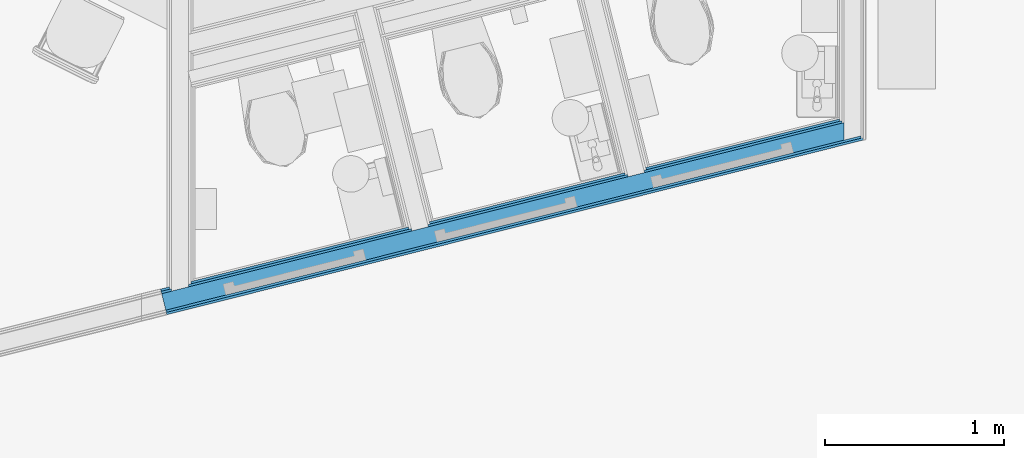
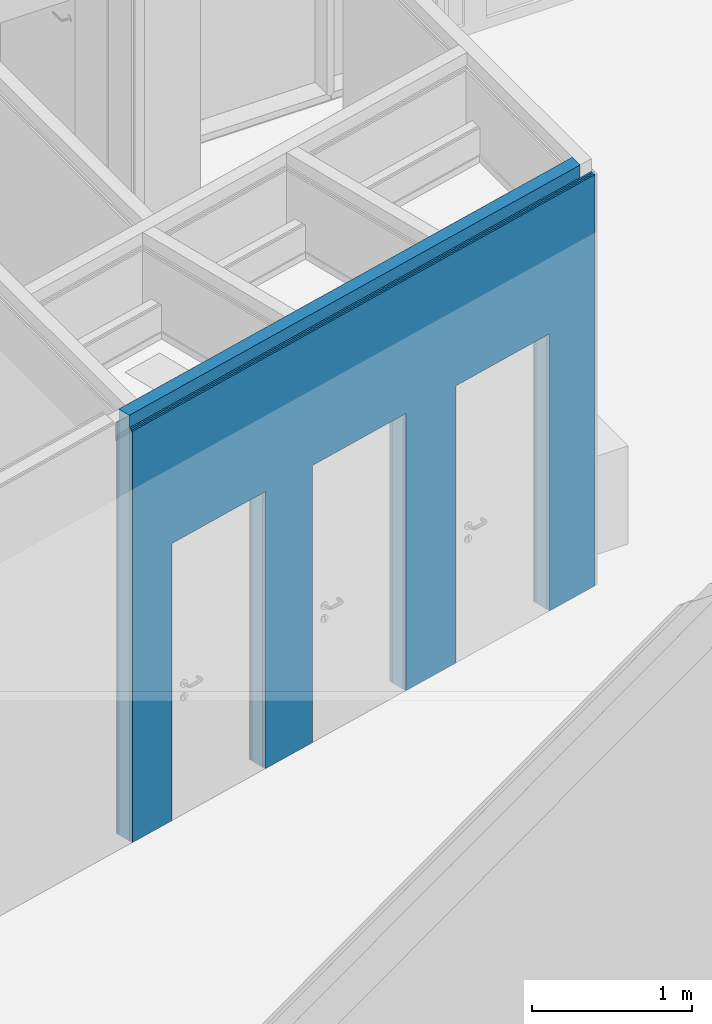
# One storey, part 47 of 153: 5 building element parts, 3 openings, 1 element without a shape of its own.
"""IFC2X3 building model written with IfcOpenShell, lengths in millimetres."""

from ifc_helpers import new_model, entity, si_unit, converted_unit, derived_unit, money_unit, direction, frame, origin_with_axes, place, context, subcontext, project, spatial, faceted_brep, material, type_object, element, aggregate, save


model = new_model("IFC2X3")

# Units and contexts
model_context = context("Model", 3, precision=0.01, world=origin_with_axes(), true_north=direction((0.0, 1.0)))
body_context = subcontext(model_context, "Body", "Model", "MODEL_VIEW")
ifc_project = project(units=[si_unit("LENGTHUNIT", "METRE", prefix="MILLI"), si_unit("AREAUNIT", "SQUARE_METRE"), si_unit("VOLUMEUNIT", "CUBIC_METRE"), converted_unit("PLANEANGLEUNIT", "DEGREE", entity("IfcPlaneAngleMeasure", 0.0174532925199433), si_unit("PLANEANGLEUNIT", "RADIAN"), dimensions=[0, 0, 0, 0, 0, 0, 0]), money_unit("EUR"), converted_unit("TIMEUNIT", "Year", entity("IfcTimeMeasure", 31557600.0), si_unit("TIMEUNIT", "SECOND"), dimensions=[0, 0, 1, 0, 0, 0, 0]), si_unit("MASSUNIT", "GRAM", prefix="KILO"), si_unit("THERMODYNAMICTEMPERATUREUNIT", "DEGREE_CELSIUS"), si_unit("LUMINOUSINTENSITYUNIT", "LUMEN"), si_unit("ENERGYUNIT", "JOULE", prefix="MEGA"), derived_unit("THERMALCONDUCTANCEUNIT", [(si_unit("POWERUNIT", "WATT"), 1), (si_unit("LENGTHUNIT", "METRE"), -1), (si_unit("THERMODYNAMICTEMPERATUREUNIT", "KELVIN"), -1)]), derived_unit("SPECIFICHEATCAPACITYUNIT", [(si_unit("ENERGYUNIT", "JOULE"), 1), (si_unit("MASSUNIT", "GRAM", prefix="KILO"), -1), (si_unit("THERMODYNAMICTEMPERATUREUNIT", "KELVIN"), -1)]), derived_unit("MASSDENSITYUNIT", [(si_unit("MASSUNIT", "GRAM", prefix="KILO"), 1), (si_unit("VOLUMEUNIT", "CUBIC_METRE"), -1)])], contexts=[model_context])

# Site, building, storey
site_placement = place(None, frame((0.0, 0.0, 8650.0), z_axis=(0.0, 0.0, 1.0), x_axis=(1.0, 0.0, 0.0)))
site = spatial("IfcSite", under=ifc_project, at=site_placement, Name="43301:001:0844", CompositionType="ELEMENT")
building_placement = place(site_placement, origin_with_axes())
building = spatial("IfcBuilding", under=site, at=building_placement, Name="Kuressaare Ametikooli tuulikute mehaanikute õppekorpus", CompositionType="ELEMENT")
storey_placement = place(building_placement, frame((0.0, 0.0, 4100.0), z_axis=(0.0, 0.0, 1.0), x_axis=(1.0, 0.0, 0.0)))
storey = spatial("IfcBuildingStorey", under=building, at=storey_placement, Name="2.korrus", CompositionType="ELEMENT", Elevation=4100.0)

# Wall, openings, building element parts
wall_type = type_object("IfcWallType", Name="SS-2.2 147", PredefinedType="NOTDEFINED")
wall_placement = place(storey_placement, frame((99785.61828844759, 19945.87727084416, 0.0), z_axis=(0.0, 0.0, 1.0), x_axis=(0.9699953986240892, 0.2431232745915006, 0.0)))
wall = element("IfcWall", 1, at=wall_placement, inside=storey, type_object=wall_type, Name="Sisesein")
opening_1_placement = place(wall_placement, frame((750.1028957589, 0.0, 0.0), z_axis=(0.0, 0.0, 1.0), x_axis=(1.0, 0.0, 0.0)))
element("IfcOpeningElement", 2, at=opening_1_placement, cuts=wall, Name="PU8", context=body_context, shape_type="Brep", body=[
    faceted_brep([(405.0000000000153, 1098.206924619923, 2110.0), (405.0000000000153, 1098.206924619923, 0.0), (-405.0000000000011, 1098.206924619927, 0.0), (-405.0000000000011, 1098.206924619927, 2110.0), (405.0000000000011, -951.2069246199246, 2110.0), (405.0000000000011, -951.2069246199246, 0.0), (-405.0000000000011, -951.2069246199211, 0.0), (-405.0000000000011, -951.2069246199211, 2110.0)], [[[0, 1, 2, 3]], [[4, 5, 1, 0]], [[5, 6, 2, 1]], [[6, 7, 3, 2]], [[7, 4, 0, 3]], [[6, 5, 4, 7]]]),
])
opening_2_placement = place(wall_placement, frame((1968.103046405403, 0.0, 0.0), z_axis=(0.0, 0.0, 1.0), x_axis=(1.0, 0.0, 0.0)))
element("IfcOpeningElement", 3, at=opening_2_placement, cuts=wall, Name="PU8", context=body_context, shape_type="Brep", body=[
    faceted_brep([(405.0000000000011, 1098.206924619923, 2110.0), (405.0000000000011, 1098.206924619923, 0.0), (-405.0000000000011, 1098.206924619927, 0.0), (-405.0000000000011, 1098.206924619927, 2110.0), (405.0000000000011, -951.2069246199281, 2110.0), (405.0000000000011, -951.2069246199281, 0.0), (-405.0000000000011, -951.2069246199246, 0.0), (-405.0000000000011, -951.2069246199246, 2110.0)], [[[0, 1, 2, 3]], [[4, 5, 1, 0]], [[5, 6, 2, 1]], [[6, 7, 3, 2]], [[7, 4, 0, 3]], [[6, 5, 4, 7]]]),
])
opening_3_placement = place(wall_placement, frame((3215.103197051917, 0.0, 0.0), z_axis=(0.0, 0.0, 1.0), x_axis=(1.0, 0.0, 0.0)))
element("IfcOpeningElement", 4, at=opening_3_placement, cuts=wall, Name="PU8", context=body_context, shape_type="Brep", body=[
    faceted_brep([(405.0000000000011, 1098.206924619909, 2110.0), (405.0000000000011, 1098.206924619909, 0.0), (-405.0000000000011, 1098.206924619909, 0.0), (-405.0000000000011, 1098.206924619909, 2110.0), (405.0000000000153, -951.2069246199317, 2110.0), (405.0000000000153, -951.2069246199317, 0.0), (-404.9999999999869, -951.2069246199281, 0.0), (-404.9999999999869, -951.2069246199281, 2110.0)], [[[0, 1, 2, 3]], [[4, 5, 1, 0]], [[5, 6, 2, 1]], [[6, 7, 3, 2]], [[7, 4, 0, 3]], [[6, 5, 4, 7]]]),
])
ifc_material_1 = material(Name="Kipsplaat")
building_element_part_1_placement = place(wall_placement, origin_with_axes())
building_element_part_1 = element("IfcBuildingElementPart", 5, at=building_element_part_1_placement, material=ifc_material_1, Name="Kipsplaat", context=body_context, shape_type="Brep", body=[
    faceted_brep([(0.0, 147.000000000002, 3129.999999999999), (50.2467552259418, 147.000000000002, 3129.999999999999), (50.2467552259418, 147.000000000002, 0.0), (0.0, 147.000000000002, 0.0), (46.98838660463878, 134.0000000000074, 3129.999999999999), (0.0, 134.0000000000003, 3129.999999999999), (46.98838660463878, 134.0000000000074, 0.0), (0.0, 134.0000000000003, 0.0)], [[[0, 1, 2, 3]], [[4, 1, 0, 5]], [[1, 4, 6, 2]], [[3, 2, 6, 7]], [[5, 0, 3, 7]], [[4, 5, 7, 6]]]),
    faceted_brep([(345.1028957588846, 134.0000000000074, 0.0), (345.1028957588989, 134.0000000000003, 2110.0), (1155.102895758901, 134.0000000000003, 2110.0), (1155.102895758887, 134.0000000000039, 0.0), (1429.103046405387, 134.0000000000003, 0.0), (1429.103046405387, 134.0000000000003, 3129.999999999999), (171.7312463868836, 134.0000000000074, 3129.999999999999), (171.7312463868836, 134.0000000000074, 0.0), (345.1028957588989, 147.000000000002, 0.0), (345.1028957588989, 147.000000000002, 2110.0), (1155.102895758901, 147.000000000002, 2110.0), (1155.102895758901, 146.9999999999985, 0.0), (1429.103046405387, 146.9999999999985, 0.0), (1429.103046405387, 146.9999999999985, 3129.999999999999), (174.9896150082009, 146.9999999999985, 3129.999999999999), (174.9896150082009, 146.9999999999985, 0.0)], [[[0, 1, 2, 3, 4, 5, 6, 7]], [[1, 0, 8, 9]], [[2, 1, 9, 10]], [[3, 2, 10, 11]], [[3, 11, 12, 4]], [[5, 4, 12, 13]], [[5, 13, 14, 6]], [[14, 15, 7, 6]], [[8, 0, 7, 15]], [[9, 8, 15, 14, 13, 12, 11, 10]]]),
    faceted_brep([(2810.10319705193, 133.9999999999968, 0.0), (2810.10319705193, 133.9999999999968, 2110.0), (3620.103197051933, 133.9999999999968, 2110.0), (3620.103197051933, 133.9999999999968, 0.0), (3911.26842200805, 134.0000000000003, 0.0), (3911.26842200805, 134.0000000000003, 3129.999999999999), (2797.103366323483, 134.0000000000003, 3129.999999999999), (2797.103366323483, 134.0000000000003, 0.0), (2810.103197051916, 147.000000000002, 0.0), (2810.103197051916, 147.000000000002, 2110.0), (3620.103197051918, 147.000000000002, 2110.0), (3620.103197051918, 147.000000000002, 0.0), (3914.526790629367, 147.0000000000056, 0.0), (3914.526790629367, 147.0000000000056, 3129.999999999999), (2797.103364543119, 147.000000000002, 3129.999999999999), (2797.103364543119, 147.000000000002, 0.0)], [[[0, 1, 2, 3, 4, 5, 6, 7]], [[1, 0, 8, 9]], [[2, 1, 9, 10]], [[3, 2, 10, 11]], [[3, 11, 12, 4]], [[5, 4, 12, 13]], [[13, 14, 6, 5]], [[14, 15, 7, 6]], [[8, 0, 7, 15]], [[9, 8, 15, 14, 13, 12, 11, 10]]]),
    faceted_brep([(1563.103046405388, 133.9999999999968, 0.0), (1563.103046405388, 133.9999999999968, 2110.0), (2373.103046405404, 134.0000000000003, 2110.0), (2373.103046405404, 134.0000000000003, 0.0), (2676.103366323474, 134.0000000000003, 0.0), (2676.103366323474, 134.0000000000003, 3129.999999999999), (1550.103046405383, 134.0000000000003, 3129.999999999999), (1550.103046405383, 134.0000000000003, 0.0), (1563.103046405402, 147.000000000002, 0.0), (1563.103046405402, 147.000000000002, 2110.0), (2373.103046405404, 147.000000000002, 2110.0), (2373.103046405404, 147.000000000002, 0.0), (2676.103364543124, 147.0000000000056, 0.0), (2676.103364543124, 147.0000000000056, 3129.999999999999), (1550.103046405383, 147.0000000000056, 3129.999999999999), (1550.103046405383, 147.0000000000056, 0.0)], [[[0, 1, 2, 3, 4, 5, 6, 7]], [[1, 0, 8, 9]], [[2, 1, 9, 10]], [[3, 2, 10, 11]], [[3, 11, 12, 4]], [[5, 4, 12, 13]], [[5, 13, 14, 6]], [[14, 15, 7, 6]], [[8, 0, 7, 15]], [[9, 8, 15, 14, 13, 12, 11, 10]]]),
])
building_element_part_2_placement = place(wall_placement, origin_with_axes())
building_element_part_2 = element("IfcBuildingElementPart", 6, at=building_element_part_2_placement, material=ifc_material_1, Name="Kipsplaat", context=body_context, shape_type="Brep", body=[
    faceted_brep([(0.0, 134.0000000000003, 3145.0), (60.39051203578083, 134.0000000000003, 3145.0), (60.39051203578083, 134.0000000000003, 0.0), (0.0, 134.0000000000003, 0.0), (57.1321434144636, 121.0000000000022, 3145.0), (0.0, 120.9999999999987, 3145.0), (57.1321434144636, 121.0000000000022, 0.0), (0.0, 120.9999999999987, 0.0)], [[[0, 1, 2, 3]], [[4, 1, 0, 5]], [[1, 4, 6, 2]], [[3, 2, 6, 7]], [[5, 0, 3, 7]], [[4, 5, 7, 6]]]),
    faceted_brep([(345.1028957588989, 120.9999999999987, 0.0), (345.1028957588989, 120.9999999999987, 2110.0), (1155.102895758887, 121.0000000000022, 2110.0), (1155.102895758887, 121.0000000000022, 0.0), (1442.103046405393, 120.9999999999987, 0.0), (1442.103046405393, 120.9999999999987, 3145.0), (155.0707523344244, 121.0000000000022, 3145.0), (155.0707523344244, 121.0000000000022, 0.0), (345.1028957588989, 134.0000000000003, 0.0), (345.1028957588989, 134.0000000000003, 2110.0), (1155.102895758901, 133.9999999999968, 2110.0), (1155.102895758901, 134.0000000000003, 0.0), (1442.103046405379, 134.0000000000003, 0.0), (1442.103046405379, 134.0000000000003, 3145.0), (158.3291209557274, 134.0000000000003, 3145.0), (158.3291209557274, 134.0000000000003, 0.0)], [[[0, 1, 2, 3, 4, 5, 6, 7]], [[1, 0, 8, 9]], [[2, 1, 9, 10]], [[3, 2, 10, 11]], [[3, 11, 12, 4]], [[5, 4, 12, 13]], [[5, 13, 14, 6]], [[14, 15, 7, 6]], [[8, 0, 7, 15]], [[9, 8, 15, 14, 13, 12, 11, 10]]]),
    faceted_brep([(2810.10319705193, 120.9999999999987, 0.0), (2810.103197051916, 120.9999999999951, 2110.0), (3620.103197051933, 120.9999999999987, 2110.0), (3620.103197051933, 120.9999999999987, 0.0), (3921.412178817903, 120.9999999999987, 0.0), (3921.412178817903, 120.9999999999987, 3145.0), (2784.103368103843, 121.0000000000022, 3145.0), (2784.103368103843, 121.0000000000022, 0.0), (2810.10319705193, 133.9999999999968, 0.0), (2810.10319705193, 133.9999999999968, 2110.0), (3620.103197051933, 133.9999999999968, 2110.0), (3620.103197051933, 133.9999999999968, 0.0), (3924.670547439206, 133.9999999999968, 0.0), (3924.670547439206, 133.9999999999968, 3145.0), (2784.103366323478, 134.0000000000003, 3145.0), (2784.103366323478, 134.0000000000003, 0.0)], [[[0, 1, 2, 3, 4, 5, 6, 7]], [[1, 0, 8, 9]], [[2, 1, 9, 10]], [[3, 2, 10, 11]], [[3, 11, 12, 4]], [[5, 4, 12, 13]], [[13, 14, 6, 5]], [[14, 15, 7, 6]], [[8, 0, 7, 15]], [[9, 8, 15, 14, 13, 12, 11, 10]]]),
    faceted_brep([(1563.103046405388, 121.0000000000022, 0.0), (1563.103046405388, 121.0000000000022, 2110.0), (2373.10304640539, 120.9999999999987, 2110.0), (2373.10304640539, 120.9999999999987, 0.0), (2689.103368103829, 121.0000000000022, 0.0), (2689.103368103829, 121.0000000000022, 3145.0), (1537.103046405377, 120.9999999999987, 3145.0), (1537.103046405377, 120.9999999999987, 0.0), (1563.103046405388, 133.9999999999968, 0.0), (1563.103046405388, 133.9999999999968, 2110.0), (2373.10304640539, 134.0000000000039, 2110.0), (2373.10304640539, 134.0000000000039, 0.0), (2689.103366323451, 134.0000000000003, 0.0), (2689.103366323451, 134.0000000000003, 3145.0), (1537.103046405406, 134.0000000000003, 3145.0), (1537.103046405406, 134.0000000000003, 0.0)], [[[0, 1, 2, 3, 4, 5, 6, 7]], [[1, 0, 8, 9]], [[2, 1, 9, 10]], [[3, 2, 10, 11]], [[3, 11, 12, 4]], [[5, 4, 12, 13]], [[5, 13, 14, 6]], [[14, 15, 7, 6]], [[8, 0, 7, 15]], [[9, 8, 15, 14, 13, 12, 11, 10]]]),
])
ifc_material_2 = material(Name="Soojustus - Mineraalvill pehme")
building_element_part_3_placement = place(wall_placement, origin_with_axes())
building_element_part_3 = element("IfcBuildingElementPart", 7, at=building_element_part_3_placement, material=ifc_material_2, Name="Soojustus - Mineraalvill pehme", context=body_context, shape_type="Brep", body=[
    faceted_brep([(2810.103197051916, 26.00000000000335, 0.0), (2810.103197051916, 25.9999999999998, 2110.0), (3620.103197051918, 25.9999999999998, 2110.0), (3620.103197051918, 26.00000000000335, 0.0), (3911.0031489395, 26.00000000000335, 0.0), (3911.0031489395, 26.00000000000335, 3240.0), (0.0, 26.00000000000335, 3240.0), (0.0, 25.9999999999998, 0.0), (345.1028957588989, 26.00000000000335, 0.0), (345.1028957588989, 26.00000000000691, 2110.0), (1155.102895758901, 26.00000000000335, 2110.0), (1155.102895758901, 25.9999999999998, 0.0), (1563.103046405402, 25.9999999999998, 0.0), (1563.103046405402, 26.00000000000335, 2110.0), (2373.103046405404, 26.00000000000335, 2110.0), (2373.103046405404, 26.00000000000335, 0.0), (2810.103197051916, 120.9999999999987, 0.0), (2810.103197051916, 120.9999999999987, 2110.0), (3620.103197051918, 120.9999999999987, 2110.0), (3620.103197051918, 121.0000000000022, 0.0), (3934.814304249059, 120.9999999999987, 0.0), (3934.814304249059, 120.9999999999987, 3240.0), (0.0, 120.9999999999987, 3240.0), (0.0, 120.9999999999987, 0.0), (345.1028957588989, 120.9999999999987, 0.0), (345.1028957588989, 120.9999999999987, 2110.0), (1155.102895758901, 120.9999999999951, 2110.0), (1155.102895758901, 120.9999999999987, 0.0), (1563.103046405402, 120.9999999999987, 0.0), (1563.103046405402, 120.9999999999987, 2110.0), (2373.103046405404, 120.9999999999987, 2110.0), (2373.103046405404, 120.9999999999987, 0.0)], [[[0, 1, 2, 3, 4, 5, 6, 7, 8, 9, 10, 11, 12, 13, 14, 15]], [[1, 0, 16, 17]], [[2, 1, 17, 18]], [[3, 2, 18, 19]], [[3, 19, 20, 4]], [[20, 21, 5, 4]], [[6, 5, 21, 22]], [[7, 6, 22, 23]], [[7, 23, 24, 8]], [[24, 25, 9, 8]], [[25, 26, 10, 9]], [[26, 27, 11, 10]], [[12, 11, 27, 28]], [[12, 28, 29, 13]], [[13, 29, 30, 14]], [[14, 30, 31, 15]], [[16, 0, 15, 31]], [[17, 16, 31, 30, 29, 28, 27, 26, 25, 24, 23, 22, 21, 20, 19, 18]]]),
])
building_element_part_4_placement = place(wall_placement, origin_with_axes())
building_element_part_4 = element("IfcBuildingElementPart", 8, at=building_element_part_4_placement, material=ifc_material_1, Name="Kipsplaat", context=body_context, shape_type="Brep", body=[
    faceted_brep([(2810.103197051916, 12.99999999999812, 0.0), (2810.103197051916, 12.99999999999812, 2110.0), (3620.103197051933, 12.99999999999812, 2110.0), (3620.103197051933, 12.99999999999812, 0.0), (4005.683389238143, 13.00000000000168, 0.0), (4005.683389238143, 13.00000000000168, 3145.0), (0.0, 13.00000000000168, 3145.0), (0.0, 13.00000000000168, 0.0), (345.1028957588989, 13.00000000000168, 0.0), (345.1028957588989, 13.00000000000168, 2110.0), (1155.102895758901, 13.00000000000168, 2110.0), (1155.102895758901, 13.00000000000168, 0.0), (1563.103046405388, 13.00000000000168, 0.0), (1563.103046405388, 13.00000000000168, 2110.0), (2373.10304640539, 13.00000000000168, 2110.0), (2373.10304640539, 13.00000000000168, 0.0), (2810.103197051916, 25.9999999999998, 0.0), (2810.103197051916, 25.9999999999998, 2110.0), (3620.103197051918, 25.9999999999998, 2110.0), (3620.103197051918, 25.9999999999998, 0.0), (4008.941757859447, 25.9999999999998, 0.0), (4008.941757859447, 25.9999999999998, 3145.0), (0.0, 26.00000000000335, 3145.0), (0.0, 25.9999999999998, 0.0), (345.1028957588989, 25.9999999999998, 0.0), (345.1028957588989, 26.00000000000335, 2110.0), (1155.102895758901, 26.00000000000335, 2110.0), (1155.102895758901, 25.9999999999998, 0.0), (1563.103046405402, 25.9999999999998, 0.0), (1563.103046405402, 25.9999999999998, 2110.0), (2373.103046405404, 26.00000000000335, 2110.0), (2373.103046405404, 25.9999999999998, 0.0)], [[[0, 1, 2, 3, 4, 5, 6, 7, 8, 9, 10, 11, 12, 13, 14, 15]], [[1, 0, 16, 17]], [[2, 1, 17, 18]], [[3, 2, 18, 19]], [[3, 19, 20, 4]], [[20, 21, 5, 4]], [[6, 5, 21, 22]], [[7, 6, 22, 23]], [[7, 23, 24, 8]], [[24, 25, 9, 8]], [[25, 26, 10, 9]], [[26, 27, 11, 10]], [[12, 11, 27, 28]], [[12, 28, 29, 13]], [[13, 29, 30, 14]], [[14, 30, 31, 15]], [[16, 0, 15, 31]], [[17, 16, 31, 30, 29, 28, 27, 26, 25, 24, 23, 22, 21, 20, 19, 18]]]),
])
building_element_part_5_placement = place(wall_placement, origin_with_axes())
building_element_part_5 = element("IfcBuildingElementPart", 9, at=building_element_part_5_placement, material=ifc_material_1, Name="Kipsplaat", context=body_context, shape_type="Brep", body=[
    faceted_brep([(2810.103197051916, 0.0, 0.0), (2810.103197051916, 0.0, 2110.0), (3620.103197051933, 0.0, 2110.0), (3620.103197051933, 0.0, 0.0), (4015.827146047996, 0.0, 0.0), (4015.827146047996, 0.0, 3129.999999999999), (0.0, 0.0, 3129.999999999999), (0.0, 0.0, 0.0), (345.1028957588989, 0.0, 0.0), (345.1028957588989, 0.0, 2110.0), (1155.102895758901, 0.0, 2110.0), (1155.102895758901, 0.0, 0.0), (1563.103046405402, 0.0, 0.0), (1563.103046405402, 0.0, 2110.0), (2373.103046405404, 0.0, 2110.0), (2373.103046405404, 0.0, 0.0), (2810.103197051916, 12.99999999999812, 0.0), (2810.103197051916, 12.99999999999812, 2110.0), (3620.103197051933, 12.99999999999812, 2110.0), (3620.103197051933, 12.99999999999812, 0.0), (4019.0855146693, 13.00000000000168, 0.0), (4019.0855146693, 13.00000000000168, 3129.999999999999), (0.0, 13.00000000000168, 3129.999999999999), (0.0, 13.00000000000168, 0.0), (345.1028957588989, 13.00000000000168, 0.0), (345.1028957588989, 13.00000000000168, 2110.0), (1155.102895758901, 13.00000000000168, 2110.0), (1155.102895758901, 13.00000000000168, 0.0), (1563.103046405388, 13.00000000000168, 0.0), (1563.103046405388, 13.00000000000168, 2110.0), (2373.10304640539, 13.00000000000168, 2110.0), (2373.10304640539, 13.00000000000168, 0.0)], [[[0, 1, 2, 3, 4, 5, 6, 7, 8, 9, 10, 11, 12, 13, 14, 15]], [[1, 0, 16, 17]], [[2, 1, 17, 18]], [[3, 2, 18, 19]], [[3, 19, 20, 4]], [[20, 21, 5, 4]], [[6, 5, 21, 22]], [[7, 6, 22, 23]], [[7, 23, 24, 8]], [[24, 25, 9, 8]], [[25, 26, 10, 9]], [[26, 27, 11, 10]], [[12, 11, 27, 28]], [[12, 28, 29, 13]], [[13, 29, 30, 14]], [[14, 30, 31, 15]], [[16, 0, 15, 31]], [[17, 16, 31, 30, 29, 28, 27, 26, 25, 24, 23, 22, 21, 20, 19, 18]]]),
])
aggregate(wall, [building_element_part_1, building_element_part_2, building_element_part_3, building_element_part_4, building_element_part_5])

save(model, "model.ifc")
